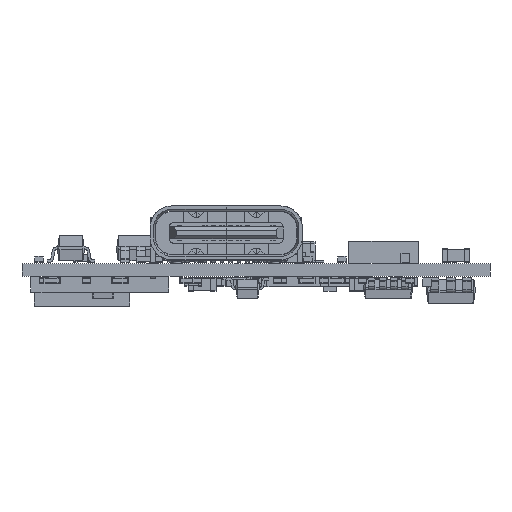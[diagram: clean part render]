
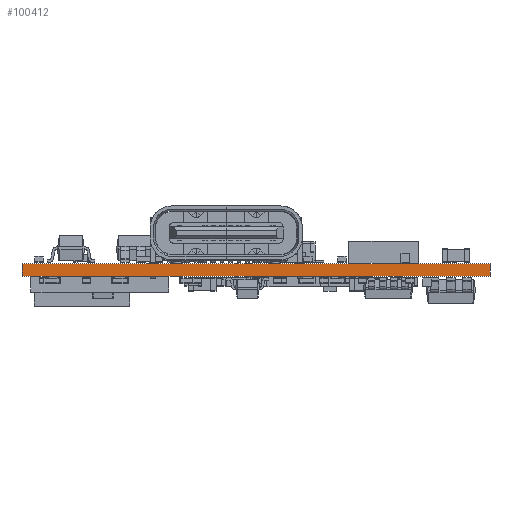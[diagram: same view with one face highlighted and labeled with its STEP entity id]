
A CAD part, front view. The second image highlights one B-rep face of the part: STEP entity #100412.
In plain terms, the highlighted planar face has unit normal (0, -1, 0).
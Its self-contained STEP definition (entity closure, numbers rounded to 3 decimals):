
#100412 = ADVANCED_FACE('',(#100413),#100427,.T.);
#100413 = FACE_BOUND('',#100414,.T.);
#100414 = EDGE_LOOP('',(#100415,#100450,#100478,#100506));
#100415 = ORIENTED_EDGE('',*,*,#100416,.T.);
#100416 = EDGE_CURVE('',#100417,#100419,#100421,.T.);
#100417 = VERTEX_POINT('',#100418);
#100418 = CARTESIAN_POINT('',(27.5,-27.,0.));
#100419 = VERTEX_POINT('',#100420);
#100420 = CARTESIAN_POINT('',(27.5,-27.,0.729));
#100421 = SURFACE_CURVE('',#100422,(#100426,#100438),.PCURVE_S1.);
#100422 = LINE('',#100423,#100424);
#100423 = CARTESIAN_POINT('',(27.5,-27.,0.));
#100424 = VECTOR('',#100425,1.);
#100425 = DIRECTION('',(0.,0.,1.));
#100426 = PCURVE('',#100427,#100432);
#100427 = PLANE('',#100428);
#100428 = AXIS2_PLACEMENT_3D('',#100429,#100430,#100431);
#100429 = CARTESIAN_POINT('',(27.5,-27.,0.));
#100430 = DIRECTION('',(0.,-1.,0.));
#100431 = DIRECTION('',(-1.,0.,0.));
#100432 = DEFINITIONAL_REPRESENTATION('',(#100433),#100437);
#100433 = LINE('',#100434,#100435);
#100434 = CARTESIAN_POINT('',(0.,-0.));
#100435 = VECTOR('',#100436,1.);
#100436 = DIRECTION('',(0.,-1.));
#100437 = ( GEOMETRIC_REPRESENTATION_CONTEXT(2) 
PARAMETRIC_REPRESENTATION_CONTEXT() REPRESENTATION_CONTEXT('2D SPACE',''
  ) );
#100438 = PCURVE('',#100439,#100444);
#100439 = PLANE('',#100440);
#100440 = AXIS2_PLACEMENT_3D('',#100441,#100442,#100443);
#100441 = CARTESIAN_POINT('',(27.5,0.5,0.));
#100442 = DIRECTION('',(1.,0.,-0.));
#100443 = DIRECTION('',(0.,-1.,0.));
#100444 = DEFINITIONAL_REPRESENTATION('',(#100445),#100449);
#100445 = LINE('',#100446,#100447);
#100446 = CARTESIAN_POINT('',(27.5,0.));
#100447 = VECTOR('',#100448,1.);
#100448 = DIRECTION('',(0.,-1.));
#100449 = ( GEOMETRIC_REPRESENTATION_CONTEXT(2) 
PARAMETRIC_REPRESENTATION_CONTEXT() REPRESENTATION_CONTEXT('2D SPACE',''
  ) );
#100450 = ORIENTED_EDGE('',*,*,#100451,.T.);
#100451 = EDGE_CURVE('',#100419,#100452,#100454,.T.);
#100452 = VERTEX_POINT('',#100453);
#100453 = CARTESIAN_POINT('',(0.,-27.,0.729));
#100454 = SURFACE_CURVE('',#100455,(#100459,#100466),.PCURVE_S1.);
#100455 = LINE('',#100456,#100457);
#100456 = CARTESIAN_POINT('',(27.5,-27.,0.729));
#100457 = VECTOR('',#100458,1.);
#100458 = DIRECTION('',(-1.,0.,0.));
#100459 = PCURVE('',#100427,#100460);
#100460 = DEFINITIONAL_REPRESENTATION('',(#100461),#100465);
#100461 = LINE('',#100462,#100463);
#100462 = CARTESIAN_POINT('',(0.,-0.729));
#100463 = VECTOR('',#100464,1.);
#100464 = DIRECTION('',(1.,0.));
#100465 = ( GEOMETRIC_REPRESENTATION_CONTEXT(2) 
PARAMETRIC_REPRESENTATION_CONTEXT() REPRESENTATION_CONTEXT('2D SPACE',''
  ) );
#100466 = PCURVE('',#100467,#100472);
#100467 = PLANE('',#100468);
#100468 = AXIS2_PLACEMENT_3D('',#100469,#100470,#100471);
#100469 = CARTESIAN_POINT('',(0.,0.,0.729));
#100470 = DIRECTION('',(0.,0.,1.));
#100471 = DIRECTION('',(1.,0.,-0.));
#100472 = DEFINITIONAL_REPRESENTATION('',(#100473),#100477);
#100473 = LINE('',#100474,#100475);
#100474 = CARTESIAN_POINT('',(27.5,-27.));
#100475 = VECTOR('',#100476,1.);
#100476 = DIRECTION('',(-1.,0.));
#100477 = ( GEOMETRIC_REPRESENTATION_CONTEXT(2) 
PARAMETRIC_REPRESENTATION_CONTEXT() REPRESENTATION_CONTEXT('2D SPACE',''
  ) );
#100478 = ORIENTED_EDGE('',*,*,#100479,.F.);
#100479 = EDGE_CURVE('',#100480,#100452,#100482,.T.);
#100480 = VERTEX_POINT('',#100481);
#100481 = CARTESIAN_POINT('',(0.,-27.,0.));
#100482 = SURFACE_CURVE('',#100483,(#100487,#100494),.PCURVE_S1.);
#100483 = LINE('',#100484,#100485);
#100484 = CARTESIAN_POINT('',(0.,-27.,0.));
#100485 = VECTOR('',#100486,1.);
#100486 = DIRECTION('',(0.,0.,1.));
#100487 = PCURVE('',#100427,#100488);
#100488 = DEFINITIONAL_REPRESENTATION('',(#100489),#100493);
#100489 = LINE('',#100490,#100491);
#100490 = CARTESIAN_POINT('',(27.5,0.));
#100491 = VECTOR('',#100492,1.);
#100492 = DIRECTION('',(0.,-1.));
#100493 = ( GEOMETRIC_REPRESENTATION_CONTEXT(2) 
PARAMETRIC_REPRESENTATION_CONTEXT() REPRESENTATION_CONTEXT('2D SPACE',''
  ) );
#100494 = PCURVE('',#100495,#100500);
#100495 = PLANE('',#100496);
#100496 = AXIS2_PLACEMENT_3D('',#100497,#100498,#100499);
#100497 = CARTESIAN_POINT('',(0.,-27.,0.));
#100498 = DIRECTION('',(-1.,0.,0.));
#100499 = DIRECTION('',(0.,1.,0.));
#100500 = DEFINITIONAL_REPRESENTATION('',(#100501),#100505);
#100501 = LINE('',#100502,#100503);
#100502 = CARTESIAN_POINT('',(0.,0.));
#100503 = VECTOR('',#100504,1.);
#100504 = DIRECTION('',(0.,-1.));
#100505 = ( GEOMETRIC_REPRESENTATION_CONTEXT(2) 
PARAMETRIC_REPRESENTATION_CONTEXT() REPRESENTATION_CONTEXT('2D SPACE',''
  ) );
#100506 = ORIENTED_EDGE('',*,*,#100507,.F.);
#100507 = EDGE_CURVE('',#100417,#100480,#100508,.T.);
#100508 = SURFACE_CURVE('',#100509,(#100513,#100520),.PCURVE_S1.);
#100509 = LINE('',#100510,#100511);
#100510 = CARTESIAN_POINT('',(27.5,-27.,0.));
#100511 = VECTOR('',#100512,1.);
#100512 = DIRECTION('',(-1.,0.,0.));
#100513 = PCURVE('',#100427,#100514);
#100514 = DEFINITIONAL_REPRESENTATION('',(#100515),#100519);
#100515 = LINE('',#100516,#100517);
#100516 = CARTESIAN_POINT('',(0.,-0.));
#100517 = VECTOR('',#100518,1.);
#100518 = DIRECTION('',(1.,0.));
#100519 = ( GEOMETRIC_REPRESENTATION_CONTEXT(2) 
PARAMETRIC_REPRESENTATION_CONTEXT() REPRESENTATION_CONTEXT('2D SPACE',''
  ) );
#100520 = PCURVE('',#100521,#100526);
#100521 = PLANE('',#100522);
#100522 = AXIS2_PLACEMENT_3D('',#100523,#100524,#100525);
#100523 = CARTESIAN_POINT('',(0.,0.,0.));
#100524 = DIRECTION('',(0.,0.,1.));
#100525 = DIRECTION('',(1.,0.,-0.));
#100526 = DEFINITIONAL_REPRESENTATION('',(#100527),#100531);
#100527 = LINE('',#100528,#100529);
#100528 = CARTESIAN_POINT('',(27.5,-27.));
#100529 = VECTOR('',#100530,1.);
#100530 = DIRECTION('',(-1.,0.));
#100531 = ( GEOMETRIC_REPRESENTATION_CONTEXT(2) 
PARAMETRIC_REPRESENTATION_CONTEXT() REPRESENTATION_CONTEXT('2D SPACE',''
  ) );
